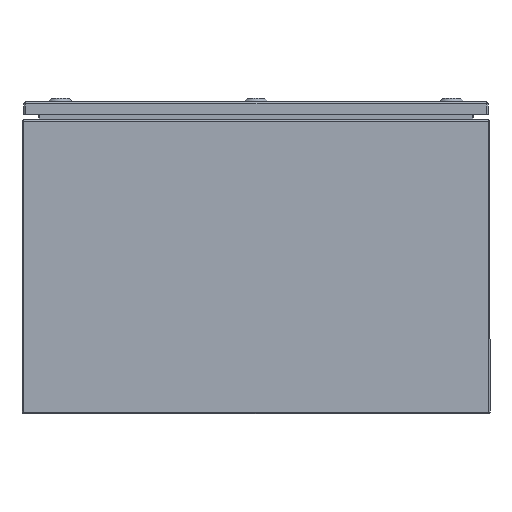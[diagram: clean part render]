
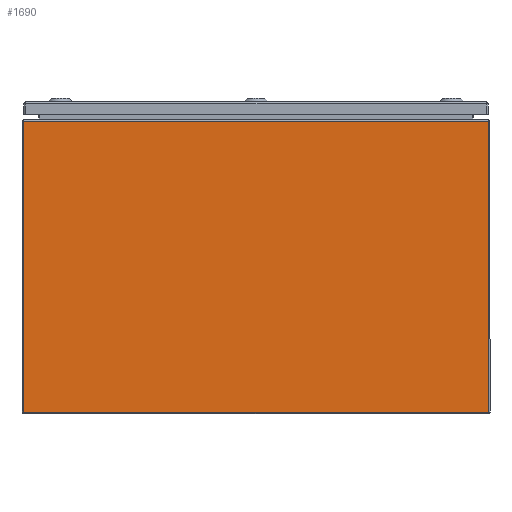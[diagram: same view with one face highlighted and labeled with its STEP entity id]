
A CAD part, left-side view. The second image highlights one B-rep face of the part: STEP entity #1690.
In plain terms, the highlighted planar face has unit normal (-1, 0, 0).
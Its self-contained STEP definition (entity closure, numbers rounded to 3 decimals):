
#279 = LINE ( 'NONE', #4472, #9073 ) ;
#427 = PLANE ( 'NONE',  #7413 ) ;
#1180 = DIRECTION ( 'NONE',  ( 1., 0., 0. ) ) ;
#1202 = CARTESIAN_POINT ( 'NONE',  ( -300., 297.5, 2.35 ) ) ;
#1224 = ORIENTED_EDGE ( 'NONE', *, *, #7549, .T. ) ;
#1254 = VECTOR ( 'NONE', #6603, 1000. ) ;
#1690 = ADVANCED_FACE ( 'NONE', ( #5316 ), #427, .F. ) ;
#1966 = CARTESIAN_POINT ( 'NONE',  ( -300., -297.5, 2.35 ) ) ;
#2247 = LINE ( 'NONE', #5550, #9376 ) ;
#3747 = DIRECTION ( 'NONE',  ( 0., 0., -1. ) ) ;
#3927 = DIRECTION ( 'NONE',  ( 0., -1., 0. ) ) ;
#4044 = LINE ( 'NONE', #6504, #7160 ) ;
#4091 = DIRECTION ( 'NONE',  ( 0., 0., -1. ) ) ;
#4472 = CARTESIAN_POINT ( 'NONE',  ( -300., -300., 2.35 ) ) ;
#4540 = ORIENTED_EDGE ( 'NONE', *, *, #4810, .T. ) ;
#4810 = EDGE_CURVE ( 'NONE', #7461, #10421, #4044, .T. ) ;
#5316 = FACE_OUTER_BOUND ( 'NONE', #6911, .T. ) ;
#5505 = ORIENTED_EDGE ( 'NONE', *, *, #6683, .T. ) ;
#5550 = CARTESIAN_POINT ( 'NONE',  ( -300., 300., 374.5 ) ) ;
#6259 = CARTESIAN_POINT ( 'NONE',  ( -300., -300., 1.5 ) ) ;
#6291 = CARTESIAN_POINT ( 'NONE',  ( -300., 297.5, 374.5 ) ) ;
#6449 = LINE ( 'NONE', #9831, #1254 ) ;
#6504 = CARTESIAN_POINT ( 'NONE',  ( -300., 297.5, 1.5 ) ) ;
#6547 = ORIENTED_EDGE ( 'NONE', *, *, #10529, .F. ) ;
#6603 = DIRECTION ( 'NONE',  ( 0., 0., 1. ) ) ;
#6683 = EDGE_CURVE ( 'NONE', #10421, #8805, #279, .T. ) ;
#6911 = EDGE_LOOP ( 'NONE', ( #4540, #5505, #1224, #6547 ) ) ;
#7111 = VERTEX_POINT ( 'NONE', #9843 ) ;
#7160 = VECTOR ( 'NONE', #4091, 1000. ) ;
#7413 = AXIS2_PLACEMENT_3D ( 'NONE', #6259, #1180, #3747 ) ;
#7461 = VERTEX_POINT ( 'NONE', #6291 ) ;
#7549 = EDGE_CURVE ( 'NONE', #8805, #7111, #6449, .T. ) ;
#8668 = DIRECTION ( 'NONE',  ( 0., -1., 0. ) ) ;
#8805 = VERTEX_POINT ( 'NONE', #1966 ) ;
#9073 = VECTOR ( 'NONE', #8668, 1000. ) ;
#9376 = VECTOR ( 'NONE', #3927, 1000. ) ;
#9831 = CARTESIAN_POINT ( 'NONE',  ( -300., -297.5, 1.5 ) ) ;
#9843 = CARTESIAN_POINT ( 'NONE',  ( -300., -297.5, 374.5 ) ) ;
#10421 = VERTEX_POINT ( 'NONE', #1202 ) ;
#10529 = EDGE_CURVE ( 'NONE', #7461, #7111, #2247, .T. ) ;
